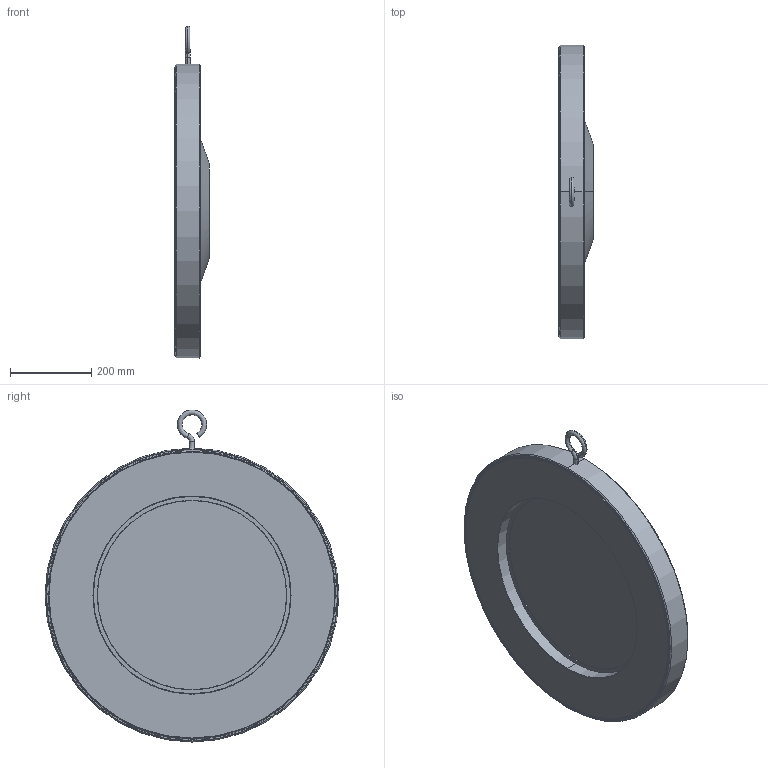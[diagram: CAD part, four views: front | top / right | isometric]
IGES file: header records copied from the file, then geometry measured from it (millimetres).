
Start section: SolidWorks IGES file using analytic representation for surfaces
Global section: file name: C:\Users\Administrator\Desktop\temp\0.IGS; native system: SolidWorks 2015; preprocessor: SolidWorks 2015; author: Administrator; date: 170404.093228; units: millimetre
Bounding box: 85.5 x 724 x 818 mm (x, y, z)
Surface area: 1225326.8 mm2 (no closed solid volume)
Topology: 0 solids, 0 shells, 182 faces, 2960 edges, 2958 vertices
Faces by surface type: bspline 112, revolution 70
